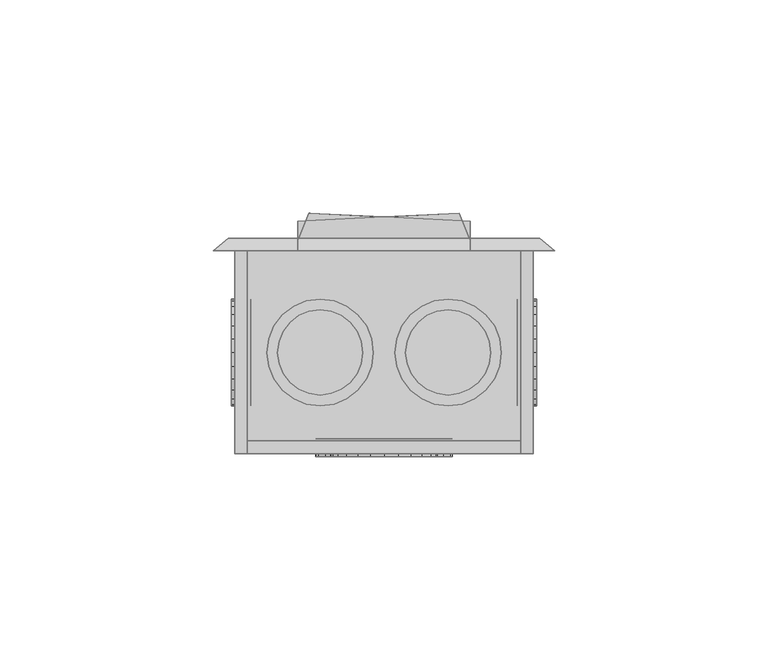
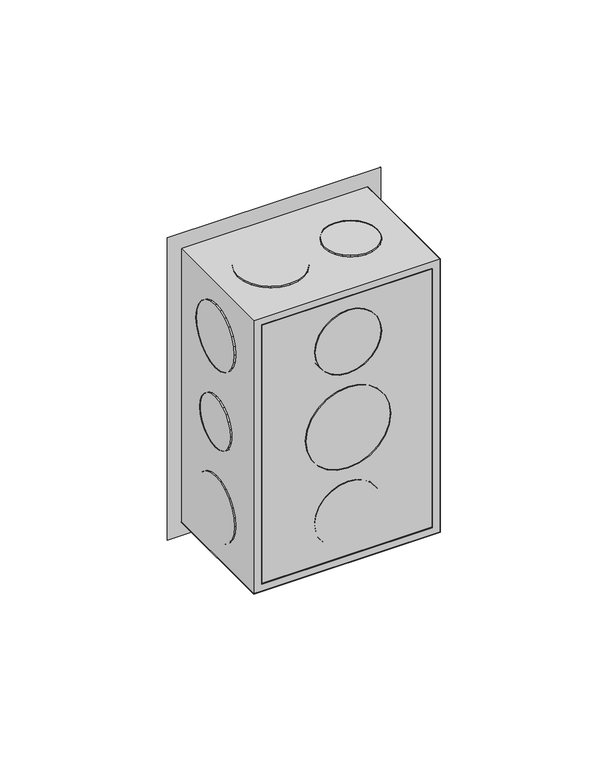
"""IFC4 building model written with IfcOpenShell, lengths in millimetres: proxy geometry,  210069 :  210069."""

from ifc_helpers import new_model, si_unit, origin, place, context, project, spatial, triangles, source, transform, mapped, element, save


def generic_models_d4470190(model_context):
    return source(origin(), model_context, "Body", "Tessellation", [
        triangles([(10815.4003052, 8696.1000137, 1254.3000378), (10818.4001221, 8696.1000137, 1148.7000154), (10815.4003052, 8696.1000137, 1145.6999805), (10818.4001221, 8696.1000137, 1251.2999302), (10885.3995209, 8696.1000137, 1254.3000378), (10882.399704, 8696.1000137, 1251.2999302), (10885.3995209, 8696.1000137, 1145.6999805), (10882.399704, 8696.1000137, 1148.7000154), (10818.4001221, 8648.6000061, 1251.2999302), (10818.4001221, 8648.6000061, 1148.7000154), (10885.3995209, 8648.6000061, 1254.3000378), (10885.3995209, 8648.6000061, 1145.6999805), (10882.399704, 8648.6000061, 1251.2999302), (10815.4003052, 8648.6000061, 1145.6999805), (10882.399704, 8648.6000061, 1148.7000154), (10815.4003052, 8648.6000061, 1254.3000378), (10818.4001221, 8651.599823, 1251.2999302), (10882.399704, 8651.599823, 1148.7000154), (10818.4001221, 8651.599823, 1148.7000154), (10882.399704, 8651.599823, 1251.2999302), (10836.600174, 8652.0997925, 1191.9999887), (10842.3998199, 8652.0997925, 1186.0999855), (10839.1000214, 8652.0997925, 1188.6999722), (10835.0002716, 8652.0997925, 1195.8999687), (10846.2995819, 8652.0997925, 1184.5000105), (10834.4003082, 8652.0997925, 1200.0000092), (10850.4004944, 8652.0997925, 1183.9999683), (10835.0002716, 8652.0997925, 1204.0999769), (10854.600238, 8652.0997925, 1184.5000105), (10836.600174, 8652.0997925, 1208.0000296), (10858.4000061, 8652.0997925, 1186.0999855), (10839.1000214, 8652.0997925, 1211.2999735), (10861.6998047, 8652.0997925, 1188.6999722), (10842.3998199, 8652.0997925, 1213.9000328), (10864.299646, 8652.0997925, 1191.9999887), (10846.2995819, 8652.0997925, 1215.5000078), (10865.8995483, 8652.0997925, 1195.8999687), (10850.4004944, 8652.0997925, 1215.9999773), (10866.3995178, 8652.0997925, 1200.0000092), (10854.600238, 8652.0997925, 1215.5000078), (10865.8995483, 8652.0997925, 1204.0999769), (10858.4000061, 8652.0997925, 1213.9000328), (10864.299646, 8652.0997925, 1208.0000296), (10861.6998047, 8652.0997925, 1211.2999735), (10854.600238, 8647.9000488, 1184.5000105), (10850.4004944, 8647.9000488, 1183.9999683), (10846.2995819, 8647.9000488, 1184.5000105), (10842.3998199, 8647.9000488, 1186.0999855), (10839.1000214, 8647.9000488, 1188.6999722), (10836.600174, 8647.9000488, 1191.9999887), (10835.0002716, 8647.9000488, 1195.8999687), (10834.4003082, 8647.9000488, 1200.0000092), (10835.0002716, 8647.9000488, 1204.0999769), (10836.600174, 8647.9000488, 1208.0000296), (10839.1000214, 8647.9000488, 1211.2999735), (10842.3998199, 8647.9000488, 1213.9000328), (10846.2995819, 8647.9000488, 1215.5000078), (10850.4004944, 8647.9000488, 1215.9999773), (10854.600238, 8647.9000488, 1215.5000078), (10858.4000061, 8647.9000488, 1213.9000328), (10861.6998047, 8647.9000488, 1211.2999735), (10864.299646, 8647.9000488, 1208.0000296), (10865.8995483, 8647.9000488, 1204.0999769), (10866.3995178, 8647.9000488, 1200.0000092), (10865.8995483, 8647.9000488, 1195.8999687), (10864.299646, 8647.9000488, 1191.9999887), (10861.6998047, 8647.9000488, 1188.6999722), (10858.4000061, 8647.9000488, 1186.0999855), (10839.5999908, 8652.0997925, 1227.8000565), (10844.1997101, 8652.0997925, 1223.2000465), (10841.5998688, 8652.0997925, 1225.2000698), (10838.4000641, 8652.0997925, 1230.8000187), (10847.199527, 8652.0997925, 1221.8999805), (10837.9000946, 8652.0997925, 1233.9999687), (10850.4004944, 8652.0997925, 1221.500005), (10838.4000641, 8652.0997925, 1237.2000641), (10853.700293, 8652.0997925, 1221.8999805), (10839.5999908, 8652.0997925, 1240.3000202), (10856.7001099, 8652.0997925, 1223.2000465), (10841.5998688, 8652.0997925, 1242.800013), (10859.2999512, 8652.0997925, 1225.2000698), (10861.2998291, 8652.0997925, 1227.8000565), (10844.1997101, 8652.0997925, 1244.8000362), (10847.199527, 8652.0997925, 1246.0999569), (10862.4997559, 8652.0997925, 1230.8000187), (10850.4004944, 8652.0997925, 1246.4999325), (10862.8997314, 8652.0997925, 1233.9999687), (10853.700293, 8652.0997925, 1246.0999569), (10862.4997559, 8652.0997925, 1237.2000641), (10861.2998291, 8652.0997925, 1240.3000202), (10856.7001099, 8652.0997925, 1244.8000362), (10859.2999512, 8652.0997925, 1242.800013), (10862.4997559, 8647.9000488, 1230.8000187), (10861.2998291, 8647.9000488, 1227.8000565), (10859.2999512, 8647.9000488, 1225.2000698), (10856.7001099, 8647.9000488, 1223.2000465), (10853.700293, 8647.9000488, 1221.8999805), (10850.4004944, 8647.9000488, 1221.500005), (10847.199527, 8647.9000488, 1221.8999805), (10844.1997101, 8647.9000488, 1223.2000465), (10841.5998688, 8647.9000488, 1225.2000698), (10839.5999908, 8647.9000488, 1227.8000565), (10838.4000641, 8647.9000488, 1230.8000187), (10837.9000946, 8647.9000488, 1233.9999687), (10838.4000641, 8647.9000488, 1237.2000641), (10839.5999908, 8647.9000488, 1240.3000202), (10841.5998688, 8647.9000488, 1242.800013), (10844.1997101, 8647.9000488, 1244.8000362), (10847.199527, 8647.9000488, 1246.0999569), (10850.4004944, 8647.9000488, 1246.4999325), (10853.700293, 8647.9000488, 1246.0999569), (10856.7001099, 8647.9000488, 1244.8000362), (10859.2999512, 8647.9000488, 1242.800013), (10861.2998291, 8647.9000488, 1240.3000202), (10862.4997559, 8647.9000488, 1237.2000641), (10862.8997314, 8647.9000488, 1233.9999687), (10844.1997101, 8647.9000488, 1155.1999821), (10839.5999908, 8647.9000488, 1159.6999981), (10841.5998688, 8647.9000488, 1157.2000053), (10847.199527, 8647.9000488, 1153.8999887), (10838.4000641, 8647.9000488, 1162.8000269), (10850.4004944, 8647.9000488, 1153.5000132), (10837.9000946, 8647.9000488, 1165.9999769), (10853.700293, 8647.9000488, 1153.8999887), (10838.4000641, 8647.9000488, 1169.1999996), (10856.7001099, 8647.9000488, 1155.1999821), (10839.5999908, 8647.9000488, 1172.2000345), (10859.2999512, 8647.9000488, 1157.2000053), (10841.5998688, 8647.9000488, 1174.8000212), (10861.2998291, 8647.9000488, 1159.6999981), (10844.1997101, 8647.9000488, 1176.7999718), (10862.4997559, 8647.9000488, 1162.8000269), (10847.199527, 8647.9000488, 1178.0999651), (10850.4004944, 8647.9000488, 1178.5000134), (10862.8997314, 8647.9000488, 1165.9999769), (10862.4997559, 8647.9000488, 1169.1999996), (10853.700293, 8647.9000488, 1178.0999651), (10861.2998291, 8647.9000488, 1172.2000345), (10856.7001099, 8647.9000488, 1176.7999718), (10859.2999512, 8647.9000488, 1174.8000212), (10847.199527, 8652.0997925, 1178.0999651), (10850.4004944, 8652.0997925, 1178.5000134), (10844.1997101, 8652.0997925, 1176.7999718), (10841.5998688, 8652.0997925, 1174.8000212), (10839.5999908, 8652.0997925, 1172.2000345), (10838.4000641, 8652.0997925, 1169.1999996), (10837.9000946, 8652.0997925, 1165.9999769), (10838.4000641, 8652.0997925, 1162.8000269), (10839.5999908, 8652.0997925, 1159.6999981), (10841.5998688, 8652.0997925, 1157.2000053), (10844.1997101, 8652.0997925, 1155.1999821), (10847.199527, 8652.0997925, 1153.8999887), (10850.4004944, 8652.0997925, 1153.5000132), (10853.700293, 8652.0997925, 1153.8999887), (10856.7001099, 8652.0997925, 1155.1999821), (10859.2999512, 8652.0997925, 1157.2000053), (10861.2998291, 8652.0997925, 1159.6999981), (10862.4997559, 8652.0997925, 1162.8000269), (10862.8997314, 8652.0997925, 1165.9999769), (10862.4997559, 8652.0997925, 1169.1999996), (10861.2998291, 8652.0997925, 1172.2000345), (10859.2999512, 8652.0997925, 1174.8000212), (10856.7001099, 8652.0997925, 1176.7999718), (10853.700293, 8652.0997925, 1178.0999651), (10819.2000732, 8667.3000275, 1191.3000315), (10819.2000732, 8663.7002472, 1195.0000237), (10819.2000732, 8665.2001556, 1192.9000065), (10819.2000732, 8662.6997269, 1197.4000225), (10819.2000732, 8669.699881, 1190.3000198), (10819.2000732, 8662.2997513, 1200.0000092), (10819.2000732, 8672.2997223, 1189.9999655), (10819.2000732, 8674.900145, 1190.3000198), (10819.2000732, 8662.6997269, 1202.5999958), (10819.2000732, 8663.7002472, 1204.9999947), (10819.2000732, 8677.2999985, 1191.3000315), (10819.2000732, 8665.2001556, 1207.1000118), (10819.2000732, 8679.3998703, 1192.9000065), (10819.2000732, 8680.9997726, 1195.0000237), (10819.2000732, 8667.3000275, 1208.6999868), (10819.2000732, 8681.9997116, 1197.4000225), (10819.2000732, 8669.699881, 1209.6999985), (10819.2000732, 8682.3002747, 1200.0000092), (10819.2000732, 8672.2997223, 1209.9999802), (10819.2000732, 8681.9997116, 1202.5999958), (10819.2000732, 8674.900145, 1209.6999985), (10819.2000732, 8677.2999985, 1208.6999868), (10819.2000732, 8680.9997726, 1204.9999947), (10819.2000732, 8679.3998703, 1207.1000118), (10814.600354, 8672.2997223, 1189.9999655), (10814.600354, 8669.699881, 1190.3000198), (10814.600354, 8674.900145, 1190.3000198), (10814.600354, 8677.2999985, 1191.3000315), (10814.600354, 8679.3998703, 1192.9000065), (10814.600354, 8680.9997726, 1195.0000237), (10814.600354, 8681.9997116, 1197.4000225), (10814.600354, 8682.3002747, 1200.0000092), (10814.600354, 8681.9997116, 1202.5999958), (10814.600354, 8680.9997726, 1204.9999947), (10814.600354, 8679.3998703, 1207.1000118), (10814.600354, 8677.2999985, 1208.6999868), (10814.600354, 8674.900145, 1209.6999985), (10814.600354, 8672.2997223, 1209.9999802), (10814.600354, 8669.699881, 1209.6999985), (10814.600354, 8667.3000275, 1208.6999868), (10814.600354, 8665.2001556, 1207.1000118), (10814.600354, 8663.7002472, 1204.9999947), (10814.600354, 8662.6997269, 1202.5999958), (10814.600354, 8662.2997513, 1200.0000092), (10814.600354, 8662.6997269, 1197.4000225), (10814.600354, 8663.7002472, 1195.0000237), (10814.600354, 8665.2001556, 1192.9000065), (10814.600354, 8667.3000275, 1191.3000315), (10819.2000732, 8666.1001007, 1223.2000465), (10819.2000732, 8661.4998001, 1227.8000565), (10819.2000732, 8663.5002594, 1225.2000698), (10819.2000732, 8669.0999176, 1221.8999805), (10819.2000732, 8660.1998795, 1230.8000187), (10819.2000732, 8659.7999039, 1233.9999687), (10819.2000732, 8672.2997223, 1221.500005), (10819.2000732, 8675.5001083, 1221.8999805), (10819.2000732, 8660.1998795, 1237.2000641), (10819.2000732, 8661.4998001, 1240.3000202), (10819.2000732, 8678.5999191, 1223.2000465), (10819.2000732, 8681.1997604, 1225.2000698), (10819.2000732, 8663.5002594, 1242.800013), (10819.2000732, 8683.1002258, 1227.8000565), (10819.2000732, 8666.1001007, 1244.8000362), (10819.2000732, 8684.4001465, 1230.8000187), (10819.2000732, 8669.0999176, 1246.0999569), (10819.2000732, 8684.8001221, 1233.9999687), (10819.2000732, 8672.2997223, 1246.4999325), (10819.2000732, 8684.4001465, 1237.2000641), (10819.2000732, 8675.5001083, 1246.0999569), (10819.2000732, 8683.1002258, 1240.3000202), (10819.2000732, 8678.5999191, 1244.8000362), (10819.2000732, 8681.1997604, 1242.800013), (10814.600354, 8672.2997223, 1221.500005), (10814.600354, 8669.0999176, 1221.8999805), (10814.600354, 8675.5001083, 1221.8999805), (10814.600354, 8678.5999191, 1223.2000465), (10814.600354, 8681.1997604, 1225.2000698), (10814.600354, 8683.1002258, 1227.8000565), (10814.600354, 8684.4001465, 1230.8000187), (10814.600354, 8684.8001221, 1233.9999687), (10814.600354, 8684.4001465, 1237.2000641), (10814.600354, 8683.1002258, 1240.3000202), (10814.600354, 8681.1997604, 1242.800013), (10814.600354, 8678.5999191, 1244.8000362), (10814.600354, 8675.5001083, 1246.0999569), (10814.600354, 8672.2997223, 1246.4999325), (10814.600354, 8669.0999176, 1246.0999569), (10814.600354, 8666.1001007, 1244.8000362), (10814.600354, 8663.5002594, 1242.800013), (10814.600354, 8661.4998001, 1240.3000202), (10814.600354, 8660.1998795, 1237.2000641), (10814.600354, 8659.7999039, 1233.9999687), (10814.600354, 8660.1998795, 1230.8000187), (10814.600354, 8661.4998001, 1227.8000565), (10814.600354, 8663.5002594, 1225.2000698), (10814.600354, 8666.1001007, 1223.2000465), (10814.600354, 8661.4998001, 1159.6999981), (10814.600354, 8666.1001007, 1155.1999821), (10814.600354, 8663.5002594, 1157.2000053), (10814.600354, 8660.1998795, 1162.8000269), (10814.600354, 8669.0999176, 1153.8999887), (10814.600354, 8659.7999039, 1165.9999769), (10814.600354, 8672.2997223, 1153.5000132), (10814.600354, 8660.1998795, 1169.1999996), (10814.600354, 8675.5001083, 1153.8999887), (10814.600354, 8661.4998001, 1172.2000345), (10814.600354, 8678.5999191, 1155.1999821), (10814.600354, 8663.5002594, 1174.8000212), (10814.600354, 8681.1997604, 1157.2000053), (10814.600354, 8666.1001007, 1176.7999718), (10814.600354, 8683.1002258, 1159.6999981), (10814.600354, 8669.0999176, 1178.0999651), (10814.600354, 8684.4001465, 1162.8000269), (10814.600354, 8672.2997223, 1178.5000134), (10814.600354, 8684.8001221, 1165.9999769), (10814.600354, 8675.5001083, 1178.0999651), (10814.600354, 8684.4001465, 1169.1999996), (10814.600354, 8678.5999191, 1176.7999718), (10814.600354, 8683.1002258, 1172.2000345), (10814.600354, 8681.1997604, 1174.8000212), (10819.2000732, 8669.0999176, 1178.0999651), (10819.2000732, 8672.2997223, 1178.5000134), (10819.2000732, 8675.5001083, 1178.0999651), (10819.2000732, 8678.5999191, 1176.7999718), (10819.2000732, 8681.1997604, 1174.8000212), (10819.2000732, 8683.1002258, 1172.2000345), (10819.2000732, 8684.4001465, 1169.1999996), (10819.2000732, 8684.8001221, 1165.9999769), (10819.2000732, 8684.4001465, 1162.8000269), (10819.2000732, 8683.1002258, 1159.6999981), (10819.2000732, 8681.1997604, 1157.2000053), (10819.2000732, 8678.5999191, 1155.1999821), (10819.2000732, 8675.5001083, 1153.8999887), (10819.2000732, 8672.2997223, 1153.5000132), (10819.2000732, 8669.0999176, 1153.8999887), (10819.2000732, 8666.1001007, 1155.1999821), (10819.2000732, 8663.5002594, 1157.2000053), (10819.2000732, 8661.4998001, 1159.6999981), (10819.2000732, 8660.1998795, 1162.8000269), (10819.2000732, 8659.7999039, 1165.9999769), (10819.2000732, 8660.1998795, 1169.1999996), (10819.2000732, 8661.4998001, 1172.2000345), (10819.2000732, 8663.5002594, 1174.8000212), (10819.2000732, 8666.1001007, 1176.7999718), (10886.199472, 8667.3000275, 1191.3000315), (10886.199472, 8663.7002472, 1195.0000237), (10886.199472, 8665.2001556, 1192.9000065), (10886.199472, 8662.6997269, 1197.4000225), (10886.199472, 8669.699881, 1190.3000198), (10886.199472, 8662.2997513, 1200.0000092), (10886.199472, 8672.2997223, 1189.9999655), (10886.199472, 8674.900145, 1190.3000198), (10886.199472, 8662.6997269, 1202.5999958), (10886.199472, 8663.7002472, 1204.9999947), (10886.199472, 8677.2999985, 1191.3000315), (10886.199472, 8665.2001556, 1207.1000118), (10886.199472, 8679.3998703, 1192.9000065), (10886.199472, 8680.9997726, 1195.0000237), (10886.199472, 8667.3000275, 1208.6999868), (10886.199472, 8681.9997116, 1197.4000225), (10886.199472, 8669.699881, 1209.6999985), (10886.199472, 8682.3002747, 1200.0000092), (10886.199472, 8672.2997223, 1209.9999802), (10886.199472, 8681.9997116, 1202.5999958), (10886.199472, 8674.900145, 1209.6999985), (10886.199472, 8677.2999985, 1208.6999868), (10886.199472, 8680.9997726, 1204.9999947), (10886.199472, 8679.3998703, 1207.1000118), (10881.5997528, 8669.699881, 1190.3000198), (10881.5997528, 8667.3000275, 1191.3000315), (10881.5997528, 8672.2997223, 1189.9999655), (10881.5997528, 8674.900145, 1190.3000198), (10881.5997528, 8677.2999985, 1191.3000315), (10881.5997528, 8679.3998703, 1192.9000065), (10881.5997528, 8680.9997726, 1195.0000237), (10881.5997528, 8681.9997116, 1197.4000225), (10881.5997528, 8682.3002747, 1200.0000092), (10881.5997528, 8681.9997116, 1202.5999958), (10881.5997528, 8680.9997726, 1204.9999947), (10881.5997528, 8679.3998703, 1207.1000118), (10881.5997528, 8677.2999985, 1208.6999868), (10881.5997528, 8674.900145, 1209.6999985), (10881.5997528, 8672.2997223, 1209.9999802), (10881.5997528, 8669.699881, 1209.6999985), (10881.5997528, 8667.3000275, 1208.6999868), (10881.5997528, 8665.2001556, 1207.1000118), (10881.5997528, 8663.7002472, 1204.9999947), (10881.5997528, 8662.6997269, 1202.5999958), (10881.5997528, 8662.2997513, 1200.0000092), (10881.5997528, 8662.6997269, 1197.4000225), (10881.5997528, 8663.7002472, 1195.0000237), (10881.5997528, 8665.2001556, 1192.9000065), (10881.5997528, 8661.4998001, 1159.6999981), (10881.5997528, 8666.1001007, 1155.1999821), (10881.5997528, 8663.5002594, 1157.2000053), (10881.5997528, 8660.1998795, 1162.8000269), (10881.5997528, 8669.0999176, 1153.8999887), (10881.5997528, 8659.7999039, 1165.9999769), (10881.5997528, 8672.2997223, 1153.5000132), (10881.5997528, 8660.1998795, 1169.1999996), (10881.5997528, 8675.5001083, 1153.8999887), (10881.5997528, 8661.4998001, 1172.2000345), (10881.5997528, 8678.5999191, 1155.1999821), (10881.5997528, 8663.5002594, 1174.8000212), (10881.5997528, 8681.1997604, 1157.2000053), (10881.5997528, 8666.1001007, 1176.7999718), (10881.5997528, 8683.1002258, 1159.6999981), (10881.5997528, 8669.0999176, 1178.0999651), (10881.5997528, 8684.4001465, 1162.8000269), (10881.5997528, 8672.2997223, 1178.5000134), (10881.5997528, 8684.8001221, 1165.9999769), (10881.5997528, 8675.5001083, 1178.0999651), (10881.5997528, 8684.4001465, 1169.1999996), (10881.5997528, 8678.5999191, 1176.7999718), (10881.5997528, 8683.1002258, 1172.2000345), (10881.5997528, 8681.1997604, 1174.8000212), (10886.199472, 8669.0999176, 1178.0999651), (10886.199472, 8672.2997223, 1178.5000134), (10886.199472, 8675.5001083, 1178.0999651), (10886.199472, 8678.5999191, 1176.7999718), (10886.199472, 8681.1997604, 1174.8000212), (10886.199472, 8683.1002258, 1172.2000345), (10886.199472, 8684.4001465, 1169.1999996), (10886.199472, 8684.8001221, 1165.9999769), (10886.199472, 8684.4001465, 1162.8000269), (10886.199472, 8683.1002258, 1159.6999981), (10886.199472, 8681.1997604, 1157.2000053), (10886.199472, 8678.5999191, 1155.1999821), (10886.199472, 8675.5001083, 1153.8999887), (10886.199472, 8672.2997223, 1153.5000132), (10886.199472, 8669.0999176, 1153.8999887), (10886.199472, 8666.1001007, 1155.1999821), (10886.199472, 8663.5002594, 1157.2000053), (10886.199472, 8661.4998001, 1159.6999981), (10886.199472, 8660.1998795, 1162.8000269), (10886.199472, 8659.7999039, 1165.9999769), (10886.199472, 8660.1998795, 1169.1999996), (10886.199472, 8661.4998001, 1172.2000345), (10886.199472, 8663.5002594, 1174.8000212), (10886.199472, 8666.1001007, 1176.7999718), (10886.199472, 8666.1001007, 1223.2000465), (10886.199472, 8661.4998001, 1227.8000565), (10886.199472, 8663.5002594, 1225.2000698), (10886.199472, 8669.0999176, 1221.8999805), (10886.199472, 8660.1998795, 1230.8000187), (10886.199472, 8659.7999039, 1233.9999687), (10886.199472, 8672.2997223, 1221.500005), (10886.199472, 8675.5001083, 1221.8999805), (10886.199472, 8660.1998795, 1237.2000641), (10886.199472, 8661.4998001, 1240.3000202), (10886.199472, 8678.5999191, 1223.2000465), (10886.199472, 8681.1997604, 1225.2000698), (10886.199472, 8663.5002594, 1242.800013), (10886.199472, 8683.1002258, 1227.8000565), (10886.199472, 8666.1001007, 1244.8000362), (10886.199472, 8684.4001465, 1230.8000187), (10886.199472, 8669.0999176, 1246.0999569), (10886.199472, 8684.8001221, 1233.9999687), (10886.199472, 8672.2997223, 1246.4999325), (10886.199472, 8684.4001465, 1237.2000641), (10886.199472, 8675.5001083, 1246.0999569), (10886.199472, 8683.1002258, 1240.3000202), (10886.199472, 8678.5999191, 1244.8000362), (10886.199472, 8681.1997604, 1242.800013), (10881.5997528, 8672.2997223, 1221.500005), (10881.5997528, 8669.0999176, 1221.8999805), (10881.5997528, 8675.5001083, 1221.8999805), (10881.5997528, 8678.5999191, 1223.2000465), (10881.5997528, 8681.1997604, 1225.2000698), (10881.5997528, 8683.1002258, 1227.8000565), (10881.5997528, 8684.4001465, 1230.8000187), (10881.5997528, 8684.8001221, 1233.9999687), (10881.5997528, 8684.4001465, 1237.2000641), (10881.5997528, 8683.1002258, 1240.3000202), (10881.5997528, 8681.1997604, 1242.800013), (10881.5997528, 8678.5999191, 1244.8000362), (10881.5997528, 8675.5001083, 1246.0999569), (10881.5997528, 8672.2997223, 1246.4999325), (10881.5997528, 8669.0999176, 1246.0999569), (10881.5997528, 8666.1001007, 1244.8000362), (10881.5997528, 8663.5002594, 1242.800013), (10881.5997528, 8661.4998001, 1240.3000202), (10881.5997528, 8660.1998795, 1237.2000641), (10881.5997528, 8659.7999039, 1233.9999687), (10881.5997528, 8660.1998795, 1230.8000187), (10881.5997528, 8661.4998001, 1227.8000565), (10881.5997528, 8663.5002594, 1225.2000698), (10881.5997528, 8666.1001007, 1223.2000465), (10829.1994629, 8661.4998001, 1255.1999828), (10824.5997437, 8666.1001007, 1255.1999828), (10826.5996216, 8663.5002594, 1255.1999828), (10823.3998169, 8669.0999176, 1255.1999828), (10832.2004425, 8660.1998795, 1255.1999828), (10835.4002472, 8659.7999039, 1255.1999828), (10822.8998474, 8672.2997223, 1255.1999828), (10823.3998169, 8675.5001083, 1255.1999828), (10838.7000458, 8660.1998795, 1255.1999828), (10841.6998627, 8661.4998001, 1255.1999828), (10824.5997437, 8678.5999191, 1255.1999828), (10826.5996216, 8681.1997604, 1255.1999828), (10844.299704, 8663.5002594, 1255.1999828), (10846.2995819, 8666.1001007, 1255.1999828), (10829.1994629, 8683.1002258, 1255.1999828), (10832.2004425, 8684.4001465, 1255.1999828), (10847.4995087, 8669.0999176, 1255.1999828), (10835.4002472, 8684.8001221, 1255.1999828), (10847.8994843, 8672.2997223, 1255.1999828), (10838.7000458, 8684.4001465, 1255.1999828), (10847.4995087, 8675.5001083, 1255.1999828), (10846.2995819, 8678.5999191, 1255.1999828), (10841.6998627, 8683.1002258, 1255.1999828), (10844.299704, 8681.1997604, 1255.1999828), (10835.4002472, 8684.8001221, 1250.9999485), (10832.2004425, 8684.4001465, 1250.9999485), (10829.1994629, 8683.1002258, 1250.9999485), (10826.5996216, 8681.1997604, 1250.9999485), (10824.5997437, 8678.5999191, 1250.9999485), (10823.3998169, 8675.5001083, 1250.9999485), (10822.8998474, 8672.2997223, 1250.9999485), (10823.3998169, 8669.0999176, 1250.9999485), (10824.5997437, 8666.1001007, 1250.9999485), (10826.5996216, 8663.5002594, 1250.9999485), (10829.1994629, 8661.4998001, 1250.9999485), (10832.2004425, 8660.1998795, 1250.9999485), (10835.4002472, 8659.7999039, 1250.9999485), (10838.7000458, 8660.1998795, 1250.9999485), (10841.6998627, 8661.4998001, 1250.9999485), (10844.299704, 8663.5002594, 1250.9999485), (10846.2995819, 8666.1001007, 1250.9999485), (10847.4995087, 8669.0999176, 1250.9999485), (10847.8994843, 8672.2997223, 1250.9999485), (10847.4995087, 8675.5001083, 1250.9999485), (10846.2995819, 8678.5999191, 1250.9999485), (10844.299704, 8681.1997604, 1250.9999485), (10841.6998627, 8683.1002258, 1250.9999485), (10838.7000458, 8684.4001465, 1250.9999485), (10856.8001038, 8667.3000275, 1250.9999485), (10860.399884, 8663.7002472, 1250.9999485), (10858.4000061, 8665.2001556, 1250.9999485), (10862.7997375, 8662.6997269, 1250.9999485), (10855.8001648, 8669.699881, 1250.9999485), (10865.3995789, 8662.2997513, 1250.9999485), (10855.4001892, 8672.2997223, 1250.9999485), (10855.8001648, 8674.900145, 1250.9999485), (10867.9994202, 8662.6997269, 1250.9999485), (10870.4004364, 8663.7002472, 1250.9999485), (10856.8001038, 8677.2999985, 1250.9999485), (10872.5003082, 8665.2001556, 1250.9999485), (10858.4000061, 8679.3998703, 1250.9999485), (10860.399884, 8680.9997726, 1250.9999485), (10874.1002106, 8667.3000275, 1250.9999485), (10875.1001495, 8669.699881, 1250.9999485), (10862.7997375, 8681.9997116, 1250.9999485), (10865.3995789, 8682.3002747, 1250.9999485), (10875.4001312, 8672.2997223, 1250.9999485), (10867.9994202, 8681.9997116, 1250.9999485), (10875.1001495, 8674.900145, 1250.9999485), (10870.4004364, 8680.9997726, 1250.9999485), (10874.1002106, 8677.2999985, 1250.9999485), (10872.5003082, 8679.3998703, 1250.9999485), (10867.9994202, 8662.6997269, 1255.1999828), (10870.4004364, 8663.7002472, 1255.1999828), (10865.3995789, 8662.2997513, 1255.1999828), (10862.7997375, 8662.6997269, 1255.1999828), (10860.399884, 8663.7002472, 1255.1999828), (10858.4000061, 8665.2001556, 1255.1999828), (10856.8001038, 8667.3000275, 1255.1999828), (10855.8001648, 8669.699881, 1255.1999828), (10855.4001892, 8672.2997223, 1255.1999828), (10855.8001648, 8674.900145, 1255.1999828), (10856.8001038, 8677.2999985, 1255.1999828), (10858.4000061, 8679.3998703, 1255.1999828), (10860.399884, 8680.9997726, 1255.1999828), (10862.7997375, 8681.9997116, 1255.1999828), (10865.3995789, 8682.3002747, 1255.1999828), (10867.9994202, 8681.9997116, 1255.1999828), (10870.4004364, 8680.9997726, 1255.1999828), (10872.5003082, 8679.3998703, 1255.1999828), (10874.1002106, 8677.2999985, 1255.1999828), (10875.1001495, 8674.900145, 1255.1999828), (10875.4001312, 8672.2997223, 1255.1999828), (10875.1001495, 8669.699881, 1255.1999828), (10874.1002106, 8667.3000275, 1255.1999828), (10872.5003082, 8665.2001556, 1255.1999828), (10830.4005524, 8663.7002472, 1149.099991), (10826.7996094, 8667.3000275, 1149.099991), (10828.3995117, 8665.2001556, 1149.099991), (10832.8004059, 8662.6997269, 1149.099991), (10825.7996704, 8669.699881, 1149.099991), (10835.4002472, 8662.2997513, 1149.099991), (10825.3996948, 8672.2997223, 1149.099991), (10825.7996704, 8674.900145, 1149.099991), (10838.0000885, 8662.6997269, 1149.099991), (10840.399942, 8663.7002472, 1149.099991), (10826.7996094, 8677.2999985, 1149.099991), (10842.4998138, 8665.2001556, 1149.099991), (10828.3995117, 8679.3998703, 1149.099991), (10830.4005524, 8680.9997726, 1149.099991), (10844.0997162, 8667.3000275, 1149.099991), (10845.0996552, 8669.699881, 1149.099991), (10832.8004059, 8681.9997116, 1149.099991), (10835.4002472, 8682.3002747, 1149.099991), (10845.3996368, 8672.2997223, 1149.099991), (10838.0000885, 8681.9997116, 1149.099991), (10845.0996552, 8674.900145, 1149.099991), (10840.399942, 8680.9997726, 1149.099991), (10844.0997162, 8677.2999985, 1149.099991), (10842.4998138, 8679.3998703, 1149.099991), (10838.0000885, 8681.9997116, 1144.8000355), (10835.4002472, 8682.3002747, 1144.8000355), (10832.8004059, 8681.9997116, 1144.8000355), (10830.4005524, 8680.9997726, 1144.8000355), (10828.3995117, 8679.3998703, 1144.8000355), (10826.7996094, 8677.2999985, 1144.8000355), (10825.7996704, 8674.900145, 1144.8000355), (10825.3996948, 8672.2997223, 1144.8000355), (10825.7996704, 8669.699881, 1144.8000355), (10826.7996094, 8667.3000275, 1144.8000355), (10828.3995117, 8665.2001556, 1144.8000355), (10830.4005524, 8663.7002472, 1144.8000355), (10832.8004059, 8662.6997269, 1144.8000355), (10835.4002472, 8662.2997513, 1144.8000355), (10838.0000885, 8662.6997269, 1144.8000355), (10840.399942, 8663.7002472, 1144.8000355), (10842.4998138, 8665.2001556, 1144.8000355), (10844.0997162, 8667.3000275, 1144.8000355), (10845.0996552, 8669.699881, 1144.8000355), (10845.3996368, 8672.2997223, 1144.8000355), (10845.0996552, 8674.900145, 1144.8000355), (10844.0997162, 8677.2999985, 1144.8000355), (10842.4998138, 8679.3998703, 1144.8000355), (10840.399942, 8680.9997726, 1144.8000355), (10854.600238, 8666.1001007, 1144.8000355), (10859.1999573, 8661.4998001, 1144.8000355), (10856.600116, 8663.5002594, 1144.8000355), (10853.4003113, 8669.0999176, 1144.8000355), (10862.1997742, 8660.1998795, 1144.8000355), (10865.3995789, 8659.7999039, 1144.8000355), (10852.9003418, 8672.2997223, 1144.8000355), (10853.4003113, 8675.5001083, 1144.8000355), (10868.7005402, 8660.1998795, 1144.8000355), (10871.7003571, 8661.4998001, 1144.8000355), (10854.600238, 8678.5999191, 1144.8000355), (10856.600116, 8681.1997604, 1144.8000355), (10874.3001984, 8663.5002594, 1144.8000355), (10876.3000763, 8666.1001007, 1144.8000355), (10859.1999573, 8683.1002258, 1144.8000355), (10862.1997742, 8684.4001465, 1144.8000355), (10877.5000031, 8669.0999176, 1144.8000355), (10865.3995789, 8684.8001221, 1144.8000355), (10877.8999786, 8672.2997223, 1144.8000355), (10868.7005402, 8684.4001465, 1144.8000355), (10877.5000031, 8675.5001083, 1144.8000355), (10876.3000763, 8678.5999191, 1144.8000355), (10871.7003571, 8683.1002258, 1144.8000355), (10874.3001984, 8681.1997604, 1144.8000355), (10868.7005402, 8660.1998795, 1149.099991), (10871.7003571, 8661.4998001, 1149.099991), (10865.3995789, 8659.7999039, 1149.099991), (10862.1997742, 8660.1998795, 1149.099991), (10859.1999573, 8661.4998001, 1149.099991), (10856.600116, 8663.5002594, 1149.099991), (10854.600238, 8666.1001007, 1149.099991), (10853.4003113, 8669.0999176, 1149.099991), (10852.9003418, 8672.2997223, 1149.099991), (10853.4003113, 8675.5001083, 1149.099991), (10854.600238, 8678.5999191, 1149.099991), (10856.600116, 8681.1997604, 1149.099991), (10859.1999573, 8683.1002258, 1149.099991), (10862.1997742, 8684.4001465, 1149.099991), (10865.3995789, 8684.8001221, 1149.099991), (10868.7005402, 8684.4001465, 1149.099991), (10871.7003571, 8683.1002258, 1149.099991), (10874.3001984, 8681.1997604, 1149.099991), (10876.3000763, 8678.5999191, 1149.099991), (10877.5000031, 8675.5001083, 1149.099991), (10877.8999786, 8672.2997223, 1149.099991), (10877.5000031, 8669.0999176, 1149.099991), (10876.3000763, 8666.1001007, 1149.099991), (10874.3001984, 8663.5002594, 1149.099991), (10890.4003784, 8696.1000137, 1139.9999651), (10830.2005646, 8696.1000137, 1164.8999714), (10810.3994476, 8696.1000137, 1139.9999651), (10870.6004242, 8696.1000137, 1164.8999714), (10890.4003784, 8696.1000137, 1259.9999805), (10870.6004242, 8696.1000137, 1235.1000469), (10810.3994476, 8696.1000137, 1259.9999805), (10830.2005646, 8696.1000137, 1235.1000469), (10870.6004242, 8699.0998306, 1164.8999714), (10870.6004242, 8699.0998306, 1235.1000469), (10830.2005646, 8699.0998306, 1164.8999714), (10830.2005646, 8699.0998306, 1235.1000469), (10813.9003967, 8699.0998306, 1143.4999695), (10813.9003967, 8699.0998306, 1256.5000488), (10886.8994293, 8699.0998306, 1143.4999695), (10886.8994293, 8699.0998306, 1256.5000488), (10830.2005646, 8703.1001678, 1211.6000278), (10870.6004242, 8696.1000137, 1211.6000278), (10830.2005646, 8696.1000137, 1211.6000278), (10867.9994202, 8704.900058, 1211.6000278), (10870.6004242, 8698.5998611, 1211.6000278), (10830.2005646, 8696.1000137, 1235.000053), (10870.6004242, 8696.1000137, 1235.000053), (10830.2005646, 8703.1001678, 1235.000053), (10867.9994202, 8704.900058, 1235.000053), (10870.6004242, 8698.5998611, 1235.000053), (10830.2005646, 8703.1001678, 1164.6999836), (10870.6004242, 8696.1000137, 1164.6999836), (10830.2005646, 8696.1000137, 1164.6999836), (10867.9994202, 8704.900058, 1164.6999836), (10870.6004242, 8698.5998611, 1164.6999836), (10830.2005646, 8696.1000137, 1188.1000088), (10870.6004242, 8696.1000137, 1188.1000088), (10830.2005646, 8703.1001678, 1188.1000088), (10867.9994202, 8704.900058, 1188.1000088), (10870.6004242, 8698.5998611, 1188.1000088), (10830.2005646, 8698.5998611, 1188.1000088), (10832.8004059, 8704.900058, 1188.1000088), (10870.6004242, 8703.1001678, 1188.1000088), (10830.2005646, 8696.1000137, 1211.500034), (10830.2005646, 8698.5998611, 1211.500034), (10832.8004059, 8704.900058, 1211.500034), (10870.6004242, 8703.1001678, 1211.500034), (10870.6004242, 8696.1000137, 1211.500034)], [[1, 2, 3], [2, 1, 4], [5, 4, 1], [4, 5, 6], [3, 2, 7], [7, 2, 8], [7, 8, 6], [7, 6, 5], [2, 9, 10], [9, 2, 4], [7, 11, 12], [11, 7, 5], [4, 13, 9], [13, 4, 6], [3, 12, 14], [12, 3, 7], [13, 8, 15], [8, 13, 6], [16, 3, 14], [3, 16, 1], [15, 2, 10], [2, 15, 8], [11, 1, 16], [1, 11, 5], [12, 10, 14], [10, 12, 15], [11, 15, 12], [15, 11, 13], [14, 10, 16], [16, 10, 9], [16, 9, 13], [16, 13, 11], [17, 18, 19], [18, 17, 20], [18, 13, 15], [13, 18, 20], [19, 15, 10], [15, 19, 18], [9, 19, 10], [19, 9, 17], [13, 17, 9], [17, 13, 20], [15, 9, 10], [9, 15, 13], [21, 22, 23], [22, 21, 24], [25, 22, 24], [25, 24, 26], [27, 25, 26], [27, 26, 28], [29, 27, 28], [29, 28, 30], [31, 29, 30], [31, 30, 32], [31, 32, 33], [33, 32, 34], [33, 34, 35], [35, 34, 36], [35, 36, 37], [37, 36, 38], [37, 38, 39], [39, 38, 40], [39, 40, 41], [41, 40, 42], [41, 42, 43], [43, 42, 44], [27, 45, 46], [45, 27, 29], [25, 46, 47], [46, 25, 27], [22, 47, 48], [47, 22, 25], [23, 48, 49], [48, 23, 22], [50, 23, 49], [23, 50, 21], [51, 21, 50], [21, 51, 24], [52, 24, 51], [24, 52, 26], [53, 26, 52], [26, 53, 28], [54, 28, 53], [28, 54, 30], [55, 30, 54], [30, 55, 32], [56, 32, 55], [32, 56, 34], [57, 34, 56], [34, 57, 36], [58, 36, 57], [36, 58, 38], [59, 38, 58], [38, 59, 40], [60, 40, 59], [40, 60, 42], [61, 42, 60], [42, 61, 44], [43, 61, 62], [61, 43, 44], [41, 62, 63], [62, 41, 43], [39, 63, 64], [63, 39, 41], [37, 64, 65], [64, 37, 39], [35, 65, 66], [65, 35, 37], [33, 66, 67], [66, 33, 35], [31, 67, 68], [67, 31, 33], [29, 68, 45], [68, 29, 31], [48, 50, 49], [50, 48, 47], [51, 50, 47], [51, 47, 46], [52, 51, 46], [52, 46, 45], [53, 52, 45], [53, 45, 68], [54, 53, 68], [54, 68, 67], [55, 54, 67], [55, 67, 66], [55, 66, 56], [56, 66, 65], [56, 65, 57], [57, 65, 64], [57, 64, 58], [58, 64, 63], [58, 63, 59], [59, 63, 62], [59, 62, 60], [60, 62, 61], [69, 70, 71], [70, 69, 72], [73, 70, 72], [73, 72, 74], [75, 73, 74], [75, 74, 76], [77, 75, 76], [77, 76, 78], [79, 77, 78], [79, 78, 80], [81, 79, 80], [81, 80, 82], [82, 80, 83], [82, 83, 84], [82, 84, 85], [85, 84, 86], [85, 86, 87], [87, 86, 88], [87, 88, 89], [89, 88, 90], [90, 88, 91], [90, 91, 92], [82, 93, 94], [93, 82, 85], [81, 94, 95], [94, 81, 82], [79, 95, 96], [95, 79, 81], [77, 96, 97], [96, 77, 79], [75, 97, 98], [97, 75, 77], [73, 98, 99], [98, 73, 75], [70, 99, 100], [99, 70, 73], [71, 100, 101], [100, 71, 70], [102, 71, 101], [71, 102, 69], [103, 69, 102], [69, 103, 72], [104, 72, 103], [72, 104, 74], [105, 74, 104], [74, 105, 76], [106, 76, 105], [76, 106, 78], [107, 78, 106], [78, 107, 80], [108, 80, 107], [80, 108, 83], [109, 83, 108], [83, 109, 84], [110, 84, 109], [84, 110, 86], [111, 86, 110], [86, 111, 88], [112, 88, 111], [88, 112, 91], [113, 91, 112], [91, 113, 92], [90, 113, 114], [113, 90, 92], [89, 114, 115], [114, 89, 90], [87, 115, 116], [115, 87, 89], [85, 116, 93], [116, 85, 87], [100, 102, 101], [102, 100, 99], [103, 102, 99], [103, 99, 98], [104, 103, 98], [104, 98, 97], [105, 104, 97], [106, 105, 97], [106, 97, 96], [106, 96, 95], [106, 95, 107], [107, 95, 94], [107, 94, 108], [108, 94, 93], [108, 93, 109], [109, 93, 116], [109, 116, 110], [110, 116, 115], [110, 115, 111], [111, 115, 114], [111, 114, 112], [112, 114, 113], [117, 118, 119], [118, 117, 120], [121, 118, 120], [121, 120, 122], [123, 121, 122], [123, 122, 124], [125, 123, 124], [125, 124, 126], [127, 125, 126], [127, 126, 128], [127, 128, 129], [129, 128, 130], [129, 130, 131], [131, 130, 132], [131, 132, 133], [133, 132, 134], [134, 132, 135], [134, 135, 136], [134, 136, 137], [137, 136, 138], [137, 138, 139], [139, 138, 140], [134, 141, 133], [141, 134, 142], [133, 143, 131], [143, 133, 141], [131, 144, 129], [144, 131, 143], [129, 145, 127], [145, 129, 144], [127, 146, 125], [146, 127, 145], [125, 147, 123], [147, 125, 146], [123, 148, 121], [148, 123, 147], [121, 149, 118], [149, 121, 148], [118, 150, 119], [150, 118, 149], [150, 117, 119], [117, 150, 151], [151, 120, 117], [120, 151, 152], [152, 122, 120], [122, 152, 153], [153, 124, 122], [124, 153, 154], [154, 126, 124], [126, 154, 155], [155, 128, 126], [128, 155, 156], [156, 130, 128], [130, 156, 157], [157, 132, 130], [132, 157, 158], [158, 135, 132], [135, 158, 159], [159, 136, 135], [136, 159, 160], [160, 138, 136], [138, 160, 161], [161, 140, 138], [140, 161, 162], [140, 163, 139], [163, 140, 162], [139, 164, 137], [164, 139, 163], [137, 142, 134], [142, 137, 164], [149, 151, 150], [151, 149, 148], [152, 151, 148], [153, 152, 148], [153, 148, 147], [153, 147, 146], [154, 153, 146], [154, 146, 145], [155, 154, 145], [155, 145, 144], [156, 155, 144], [156, 144, 157], [157, 144, 143], [157, 143, 141], [157, 141, 158], [158, 141, 142], [158, 142, 159], [159, 142, 164], [159, 164, 160], [160, 164, 163], [160, 163, 161], [161, 163, 162], [165, 166, 167], [168, 166, 165], [168, 165, 169], [170, 168, 169], [170, 169, 171], [170, 171, 172], [173, 170, 172], [174, 173, 172], [174, 172, 175], [176, 174, 175], [176, 175, 177], [176, 177, 178], [176, 178, 179], [179, 178, 180], [179, 180, 181], [181, 180, 182], [181, 182, 183], [183, 182, 184], [183, 184, 185], [185, 184, 186], [186, 184, 187], [186, 187, 188], [189, 169, 190], [169, 189, 171], [191, 171, 189], [171, 191, 172], [192, 172, 191], [172, 192, 175], [193, 175, 192], [175, 193, 177], [194, 177, 193], [177, 194, 178], [195, 178, 194], [178, 195, 180], [196, 180, 195], [180, 196, 182], [197, 182, 196], [182, 197, 184], [198, 184, 197], [184, 198, 187], [199, 187, 198], [187, 199, 188], [186, 199, 200], [199, 186, 188], [185, 200, 201], [200, 185, 186], [183, 201, 202], [201, 183, 185], [181, 202, 203], [202, 181, 183], [179, 203, 204], [203, 179, 181], [176, 204, 205], [204, 176, 179], [174, 205, 206], [205, 174, 176], [173, 206, 207], [206, 173, 174], [170, 207, 208], [207, 170, 173], [168, 208, 209], [208, 168, 170], [166, 209, 210], [209, 166, 168], [167, 210, 211], [210, 167, 166], [212, 167, 211], [167, 212, 165], [190, 165, 212], [165, 190, 169], [210, 212, 211], [212, 210, 209], [190, 212, 209], [190, 209, 208], [189, 190, 208], [189, 208, 207], [191, 189, 207], [191, 207, 206], [192, 191, 206], [192, 206, 205], [193, 192, 205], [193, 205, 204], [193, 204, 194], [194, 204, 203], [194, 203, 195], [195, 203, 196], [196, 203, 202], [196, 202, 201], [196, 201, 197], [197, 201, 200], [197, 200, 198], [198, 200, 199], [213, 214, 215], [214, 213, 216], [217, 214, 216], [218, 217, 216], [218, 216, 219], [218, 219, 220], [221, 218, 220], [222, 221, 220], [222, 220, 223], [222, 223, 224], [222, 224, 225], [225, 224, 226], [225, 226, 227], [227, 226, 228], [227, 228, 229], [229, 228, 230], [229, 230, 231], [231, 230, 232], [231, 232, 233], [233, 232, 234], [233, 234, 235], [235, 234, 236], [237, 216, 238], [216, 237, 219], [239, 219, 237], [219, 239, 220], [240, 220, 239], [220, 240, 223], [241, 223, 240], [223, 241, 224], [242, 224, 241], [224, 242, 226], [243, 226, 242], [226, 243, 228], [244, 228, 243], [228, 244, 230], [245, 230, 244], [230, 245, 232], [246, 232, 245], [232, 246, 234], [247, 234, 246], [234, 247, 236], [235, 247, 248], [247, 235, 236], [233, 248, 249], [248, 233, 235], [231, 249, 250], [249, 231, 233], [229, 250, 251], [250, 229, 231], [227, 251, 252], [251, 227, 229], [225, 252, 253], [252, 225, 227], [222, 253, 254], [253, 222, 225], [221, 254, 255], [254, 221, 222], [218, 255, 256], [255, 218, 221], [217, 256, 257], [256, 217, 218], [214, 257, 258], [257, 214, 217], [215, 258, 259], [258, 215, 214], [260, 215, 259], [215, 260, 213], [238, 213, 260], [213, 238, 216], [258, 260, 259], [260, 258, 257], [238, 260, 257], [238, 257, 256], [237, 238, 256], [237, 256, 255], [239, 237, 255], [239, 255, 254], [240, 239, 254], [240, 254, 253], [241, 240, 253], [241, 253, 252], [241, 252, 242], [242, 252, 251], [242, 251, 243], [243, 251, 244], [244, 251, 250], [244, 250, 249], [244, 249, 245], [245, 249, 246], [246, 249, 248], [246, 248, 247], [261, 262, 263], [262, 261, 264], [265, 262, 264], [265, 264, 266], [267, 265, 266], [267, 266, 268], [269, 267, 268], [269, 268, 270], [271, 269, 270], [271, 270, 272], [273, 271, 272], [273, 272, 274], [273, 274, 275], [275, 274, 276], [275, 276, 277], [277, 276, 278], [277, 278, 279], [279, 278, 280], [279, 280, 281], [281, 280, 282], [281, 282, 283], [283, 282, 284], [285, 278, 276], [278, 285, 286], [286, 280, 278], [280, 286, 287], [287, 282, 280], [282, 287, 288], [288, 284, 282], [284, 288, 289], [284, 290, 283], [290, 284, 289], [283, 291, 281], [291, 283, 290], [281, 292, 279], [292, 281, 291], [279, 293, 277], [293, 279, 292], [277, 294, 275], [294, 277, 293], [275, 295, 273], [295, 275, 294], [273, 296, 271], [296, 273, 295], [271, 297, 269], [297, 271, 296], [269, 298, 267], [298, 269, 297], [267, 299, 265], [299, 267, 298], [265, 300, 262], [300, 265, 299], [262, 301, 263], [301, 262, 300], [301, 261, 263], [261, 301, 302], [302, 264, 261], [264, 302, 303], [303, 266, 264], [266, 303, 304], [304, 268, 266], [268, 304, 305], [305, 270, 268], [270, 305, 306], [306, 272, 270], [272, 306, 307], [307, 274, 272], [274, 307, 308], [308, 276, 274], [276, 308, 285], [300, 302, 301], [302, 300, 299], [303, 302, 299], [303, 299, 298], [304, 303, 298], [304, 298, 297], [305, 304, 297], [305, 297, 296], [306, 305, 296], [306, 296, 295], [306, 295, 307], [307, 295, 294], [307, 294, 308], [308, 294, 293], [308, 293, 285], [285, 293, 286], [286, 293, 292], [286, 292, 291], [286, 291, 287], [287, 291, 288], [288, 291, 290], [288, 290, 289], [309, 310, 311], [312, 310, 309], [312, 309, 313], [314, 312, 313], [314, 313, 315], [314, 315, 316], [317, 314, 316], [318, 317, 316], [318, 316, 319], [320, 318, 319], [320, 319, 321], [320, 321, 322], [320, 322, 323], [323, 322, 324], [323, 324, 325], [325, 324, 326], [325, 326, 327], [327, 326, 328], [327, 328, 329], [329, 328, 330], [330, 328, 331], [330, 331, 332], [333, 309, 334], [309, 333, 313], [335, 313, 333], [313, 335, 315], [336, 315, 335], [315, 336, 316], [337, 316, 336], [316, 337, 319], [338, 319, 337], [319, 338, 321], [339, 321, 338], [321, 339, 322], [340, 322, 339], [322, 340, 324], [341, 324, 340], [324, 341, 326], [342, 326, 341], [326, 342, 328], [343, 328, 342], [328, 343, 331], [344, 331, 343], [331, 344, 332], [330, 344, 345], [344, 330, 332], [329, 345, 346], [345, 329, 330], [327, 346, 347], [346, 327, 329], [325, 347, 348], [347, 325, 327], [323, 348, 349], [348, 323, 325], [320, 349, 350], [349, 320, 323], [318, 350, 351], [350, 318, 320], [317, 351, 352], [351, 317, 318], [314, 352, 353], [352, 314, 317], [312, 353, 354], [353, 312, 314], [310, 354, 355], [354, 310, 312], [311, 355, 356], [355, 311, 310], [334, 311, 356], [311, 334, 309], [355, 334, 356], [334, 355, 354], [333, 334, 354], [333, 354, 353], [335, 333, 353], [335, 353, 352], [336, 335, 352], [336, 352, 351], [337, 336, 351], [337, 351, 350], [338, 337, 350], [338, 350, 349], [338, 349, 339], [339, 349, 348], [339, 348, 340], [340, 348, 341], [341, 348, 347], [341, 347, 346], [341, 346, 342], [342, 346, 345], [342, 345, 343], [343, 345, 344], [357, 358, 359], [358, 357, 360], [361, 358, 360], [361, 360, 362], [363, 361, 362], [363, 362, 364], [365, 363, 364], [365, 364, 366], [367, 365, 366], [367, 366, 368], [369, 367, 368], [369, 368, 370], [369, 370, 371], [371, 370, 372], [371, 372, 373], [373, 372, 374], [373, 374, 375], [375, 374, 376], [375, 376, 377], [377, 376, 378], [377, 378, 379], [379, 378, 380], [381, 374, 372], [374, 381, 382], [382, 376, 374], [376, 382, 383], [383, 378, 376], [378, 383, 384], [384, 380, 378], [380, 384, 385], [380, 386, 379], [386, 380, 385], [379, 387, 377], [387, 379, 386], [377, 388, 375], [388, 377, 387], [375, 389, 373], [389, 375, 388], [373, 390, 371], [390, 373, 389], [371, 391, 369], [391, 371, 390], [369, 392, 367], [392, 369, 391], [367, 393, 365], [393, 367, 392], [365, 394, 363], [394, 365, 393], [363, 395, 361], [395, 363, 394], [361, 396, 358], [396, 361, 395], [358, 397, 359], [397, 358, 396], [397, 357, 359], [357, 397, 398], [398, 360, 357], [360, 398, 399], [399, 362, 360], [362, 399, 400], [400, 364, 362], [364, 400, 401], [401, 366, 364], [366, 401, 402], [402, 368, 366], [368, 402, 403], [403, 370, 368], [370, 403, 404], [404, 372, 370], [372, 404, 381], [396, 398, 397], [398, 396, 395], [399, 398, 395], [399, 395, 394], [400, 399, 394], [400, 394, 393], [401, 400, 393], [401, 393, 392], [402, 401, 392], [402, 392, 391], [402, 391, 403], [403, 391, 390], [403, 390, 404], [404, 390, 389], [404, 389, 381], [381, 389, 382], [382, 389, 388], [382, 388, 387], [382, 387, 383], [383, 387, 384], [384, 387, 386], [384, 386, 385], [405, 406, 407], [406, 405, 408], [409, 406, 408], [410, 409, 408], [410, 408, 411], [410, 411, 412], [413, 410, 412], [414, 413, 412], [414, 412, 415], [414, 415, 416], [414, 416, 417], [417, 416, 418], [417, 418, 419], [419, 418, 420], [419, 420, 421], [421, 420, 422], [421, 422, 423], [423, 422, 424], [423, 424, 425], [425, 424, 426], [425, 426, 427], [427, 426, 428], [429, 408, 430], [408, 429, 411], [431, 411, 429], [411, 431, 412], [432, 412, 431], [412, 432, 415], [433, 415, 432], [415, 433, 416], [434, 416, 433], [416, 434, 418], [435, 418, 434], [418, 435, 420], [436, 420, 435], [420, 436, 422], [437, 422, 436], [422, 437, 424], [438, 424, 437], [424, 438, 426], [439, 426, 438], [426, 439, 428], [427, 439, 440], [439, 427, 428], [425, 440, 441], [440, 425, 427], [423, 441, 442], [441, 423, 425], [421, 442, 443], [442, 421, 423], [419, 443, 444], [443, 419, 421], [417, 444, 445], [444, 417, 419], [414, 445, 446], [445, 414, 417], [413, 446, 447], [446, 413, 414], [410, 447, 448], [447, 410, 413], [409, 448, 449], [448, 409, 410], [406, 449, 450], [449, 406, 409], [407, 450, 451], [450, 407, 406], [452, 407, 451], [407, 452, 405], [430, 405, 452], [405, 430, 408], [450, 452, 451], [452, 450, 449], [430, 452, 449], [430, 449, 448], [429, 430, 448], [429, 448, 447], [431, 429, 447], [431, 447, 446], [432, 431, 446], [432, 446, 445], [433, 432, 445], [433, 445, 444], [433, 444, 434], [434, 444, 443], [434, 443, 435], [435, 443, 436], [436, 443, 442], [436, 442, 441], [436, 441, 437], [437, 441, 438], [438, 441, 440], [438, 440, 439], [453, 454, 455], [456, 454, 453], [456, 453, 457], [456, 457, 458], [459, 456, 458], [460, 459, 458], [460, 458, 461], [460, 461, 462], [463, 460, 462], [464, 463, 462], [464, 462, 465], [464, 465, 466], [464, 466, 467], [467, 466, 468], [468, 466, 469], [468, 469, 470], [470, 469, 471], [470, 471, 472], [472, 471, 473], [472, 473, 474], [472, 474, 475], [475, 474, 476], [468, 477, 478], [477, 468, 470], [467, 478, 479], [478, 467, 468], [464, 479, 480], [479, 464, 467], [463, 480, 481], [480, 463, 464], [460, 481, 482], [481, 460, 463], [459, 482, 483], [482, 459, 460], [456, 483, 484], [483, 456, 459], [454, 484, 485], [484, 454, 456], [455, 485, 486], [485, 455, 454], [487, 455, 486], [455, 487, 453], [488, 453, 487], [453, 488, 457], [489, 457, 488], [457, 489, 458], [490, 458, 489], [458, 490, 461], [491, 461, 490], [461, 491, 462], [492, 462, 491], [462, 492, 465], [493, 465, 492], [465, 493, 466], [494, 466, 493], [466, 494, 469], [495, 469, 494], [469, 495, 471], [496, 471, 495], [471, 496, 473], [497, 473, 496], [473, 497, 474], [498, 474, 497], [474, 498, 476], [475, 498, 499], [498, 475, 476], [472, 499, 500], [499, 472, 475], [470, 500, 477], [500, 470, 472], [485, 487, 486], [487, 485, 484], [488, 487, 484], [489, 488, 484], [489, 484, 483], [489, 483, 482], [490, 489, 482], [491, 490, 482], [491, 482, 481], [491, 481, 480], [491, 480, 492], [492, 480, 493], [493, 480, 479], [493, 479, 478], [493, 478, 494], [494, 478, 477], [494, 477, 495], [495, 477, 500], [495, 500, 496], [496, 500, 497], [497, 500, 499], [497, 499, 498], [501, 502, 503], [504, 502, 501], [504, 501, 505], [506, 504, 505], [506, 505, 507], [506, 507, 508], [509, 506, 508], [510, 509, 508], [510, 508, 511], [512, 510, 511], [512, 511, 513], [512, 513, 514], [512, 514, 515], [515, 514, 516], [516, 514, 517], [516, 517, 518], [516, 518, 519], [519, 518, 520], [519, 520, 521], [521, 520, 522], [521, 522, 523], [523, 522, 524], [510, 525, 509], [525, 510, 526], [509, 527, 506], [527, 509, 525], [506, 528, 504], [528, 506, 527], [504, 529, 502], [529, 504, 528], [502, 530, 503], [530, 502, 529], [530, 501, 503], [501, 530, 531], [531, 505, 501], [505, 531, 532], [532, 507, 505], [507, 532, 533], [533, 508, 507], [508, 533, 534], [534, 511, 508], [511, 534, 535], [535, 513, 511], [513, 535, 536], [536, 514, 513], [514, 536, 537], [537, 517, 514], [517, 537, 538], [538, 518, 517], [518, 538, 539], [539, 520, 518], [520, 539, 540], [540, 522, 520], [522, 540, 541], [541, 524, 522], [524, 541, 542], [524, 543, 523], [543, 524, 542], [523, 544, 521], [544, 523, 543], [521, 545, 519], [545, 521, 544], [519, 546, 516], [546, 519, 545], [516, 547, 515], [547, 516, 546], [515, 548, 512], [548, 515, 547], [512, 526, 510], [526, 512, 548], [529, 531, 530], [531, 529, 528], [532, 531, 528], [532, 528, 527], [533, 532, 527], [534, 533, 527], [534, 527, 525], [534, 525, 526], [535, 534, 526], [535, 526, 548], [536, 535, 548], [536, 548, 537], [537, 548, 547], [537, 547, 546], [537, 546, 538], [538, 546, 539], [539, 546, 545], [539, 545, 540], [540, 545, 544], [540, 544, 541], [541, 544, 543], [541, 543, 542], [549, 550, 551], [550, 549, 552], [553, 550, 552], [553, 552, 554], [555, 553, 554], [556, 555, 554], [556, 554, 557], [556, 557, 558], [559, 556, 558], [559, 558, 560], [561, 559, 560], [561, 560, 562], [562, 560, 563], [562, 563, 564], [562, 564, 565], [565, 564, 566], [566, 564, 567], [566, 567, 568], [568, 567, 569], [568, 569, 570], [570, 569, 571], [570, 571, 572], [566, 573, 574], [573, 566, 568], [565, 574, 575], [574, 565, 566], [562, 575, 576], [575, 562, 565], [561, 576, 577], [576, 561, 562], [559, 577, 578], [577, 559, 561], [556, 578, 579], [578, 556, 559], [555, 579, 580], [579, 555, 556], [553, 580, 581], [580, 553, 555], [550, 581, 582], [581, 550, 553], [551, 582, 583], [582, 551, 550], [584, 551, 583], [551, 584, 549], [585, 549, 584], [549, 585, 552], [586, 552, 585], [552, 586, 554], [587, 554, 586], [554, 587, 557], [588, 557, 587], [557, 588, 558], [589, 558, 588], [558, 589, 560], [590, 560, 589], [560, 590, 563], [591, 563, 590], [563, 591, 564], [592, 564, 591], [564, 592, 567], [593, 567, 592], [567, 593, 569], [594, 569, 593], [569, 594, 571], [595, 571, 594], [571, 595, 572], [570, 595, 596], [595, 570, 572], [568, 596, 573], [596, 568, 570], [582, 584, 583], [585, 584, 582], [585, 582, 581], [586, 585, 581], [586, 581, 580], [586, 580, 579], [587, 586, 579], [588, 587, 579], [588, 579, 578], [589, 588, 578], [589, 578, 577], [589, 577, 576], [589, 576, 590], [590, 576, 591], [591, 576, 575], [591, 575, 574], [591, 574, 592], [592, 574, 573], [592, 573, 593], [593, 573, 596], [593, 596, 594], [594, 596, 595], [597, 598, 599], [598, 597, 600], [601, 598, 600], [602, 601, 600], [602, 600, 603], [602, 603, 604], [605, 602, 604], [606, 605, 604], [606, 604, 607], [606, 607, 608], [606, 608, 609], [609, 608, 610], [610, 608, 611], [610, 611, 612], [610, 612, 613], [613, 612, 614], [613, 614, 615], [615, 614, 616], [615, 616, 617], [617, 616, 618], [618, 616, 619], [618, 619, 620], [606, 621, 605], [621, 606, 622], [605, 623, 602], [623, 605, 621], [602, 624, 601], [624, 602, 623], [601, 625, 598], [625, 601, 624], [598, 626, 599], [626, 598, 625], [626, 597, 599], [597, 626, 627], [627, 600, 597], [600, 627, 628], [628, 603, 600], [603, 628, 629], [629, 604, 603], [604, 629, 630], [630, 607, 604], [607, 630, 631], [631, 608, 607], [608, 631, 632], [632, 611, 608], [611, 632, 633], [633, 612, 611], [612, 633, 634], [634, 614, 612], [614, 634, 635], [635, 616, 614], [616, 635, 636], [636, 619, 616], [619, 636, 637], [637, 620, 619], [620, 637, 638], [620, 639, 618], [639, 620, 638], [618, 640, 617], [640, 618, 639], [617, 641, 615], [641, 617, 640], [615, 642, 613], [642, 615, 641], [613, 643, 610], [643, 613, 642], [610, 644, 609], [644, 610, 643], [609, 622, 606], [622, 609, 644], [625, 627, 626], [628, 627, 625], [628, 625, 624], [628, 624, 623], [629, 628, 623], [630, 629, 623], [630, 623, 621], [630, 621, 622], [631, 630, 622], [632, 631, 622], [632, 622, 644], [632, 644, 643], [632, 643, 633], [633, 643, 634], [634, 643, 642], [634, 642, 635], [635, 642, 641], [635, 641, 636], [636, 641, 640], [636, 640, 639], [636, 639, 637], [637, 639, 638], [645, 646, 647], [646, 645, 648], [649, 648, 645], [648, 649, 650], [647, 646, 651], [651, 646, 652], [651, 652, 650], [651, 650, 649], [650, 653, 648], [653, 650, 654], [648, 655, 646], [655, 648, 653], [655, 652, 646], [652, 655, 656], [656, 650, 652], [650, 656, 654], [651, 657, 647], [657, 651, 658], [647, 657, 645], [645, 657, 659], [645, 659, 649], [649, 659, 660], [649, 658, 651], [658, 649, 660], [658, 655, 657], [655, 658, 656], [654, 656, 658], [660, 654, 658], [657, 655, 659], [659, 655, 653], [659, 653, 660], [660, 653, 654], [661, 662, 663], [662, 661, 664], [662, 664, 665], [662, 666, 663], [666, 662, 667], [666, 661, 663], [661, 666, 668], [668, 664, 661], [664, 668, 669], [664, 670, 665], [670, 664, 669], [665, 667, 662], [667, 665, 670], [667, 668, 666], [668, 667, 669], [669, 667, 670], [671, 672, 673], [672, 671, 674], [672, 674, 675], [672, 676, 673], [676, 672, 677], [676, 671, 673], [671, 676, 678], [678, 674, 671], [674, 678, 679], [674, 680, 675], [680, 674, 679], [675, 677, 672], [677, 675, 680], [677, 678, 676], [678, 677, 679], [679, 677, 680], [681, 677, 676], [677, 681, 682], [677, 682, 683], [684, 681, 676], [681, 684, 685], [685, 682, 681], [682, 685, 686], [686, 683, 682], [683, 686, 687], [683, 688, 677], [688, 683, 687], [677, 684, 676], [684, 677, 688], [688, 685, 684], [685, 688, 686], [686, 688, 687]], closed=False),
    ])


if __name__ == "__main__":
    model = new_model("IFC4")
    model_context = context("Model", 3, world=origin())
    ifc_project = project(units=[si_unit("LENGTHUNIT", "METRE", prefix="MILLI")], contexts=[model_context])
    site = spatial("IfcSite", under=ifc_project)
    building = spatial("IfcBuilding", under=site)
    placement = place(None, origin())
    generic_models_shape = generic_models_d4470190(model_context)
    element("IfcBuildingElementProxy", 1, Name=" 210069 :  210069", ObjectType=" 210069 :  210069", at=placement, inside=building, context=model_context, shape_type="MappedRepresentation", body=[
        mapped(generic_models_shape, transform((0.0, 0.0, 0.0), x_axis=(1.0, 0.0, 0.0), y_axis=(0.0, 1.0, 0.0), z_axis=(0.0, 0.0, 1.0))),
    ])
    save(model, "model.ifc")
